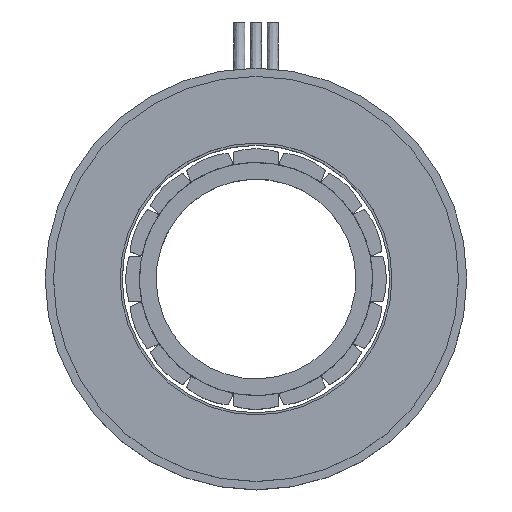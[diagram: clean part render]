
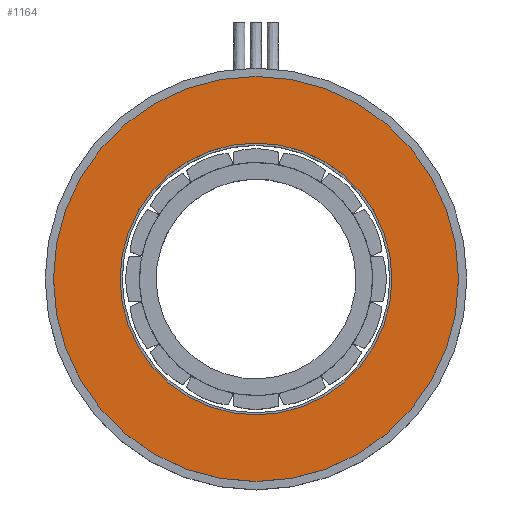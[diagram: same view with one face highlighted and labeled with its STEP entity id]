
A CAD part, top view. The second image highlights one B-rep face of the part: STEP entity #1164.
In plain terms, the highlighted planar face has unit normal (0, 0, 1).
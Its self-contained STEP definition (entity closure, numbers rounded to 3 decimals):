
#12 = FACE_BOUND ( 'NONE', #2033, .T. ) ;
#214 = CARTESIAN_POINT ( 'NONE',  ( 0., 0., 15. ) ) ;
#242 = AXIS2_PLACEMENT_3D ( 'NONE', #214, #605, #1417 ) ;
#337 = ORIENTED_EDGE ( 'NONE', *, *, #777, .T. ) ;
#356 = CIRCLE ( 'NONE', #1738, 24.5 ) ;
#459 = DIRECTION ( 'NONE',  ( 1., 0., 0. ) ) ;
#562 = CARTESIAN_POINT ( 'NONE',  ( 24.5, 0., 15. ) ) ;
#598 = CARTESIAN_POINT ( 'NONE',  ( 0., 0., 15. ) ) ;
#605 = DIRECTION ( 'NONE',  ( 0., 0., 1. ) ) ;
#620 = VERTEX_POINT ( 'NONE', #2066 ) ;
#750 = EDGE_CURVE ( 'NONE', #1549, #1247, #356, .T. ) ;
#777 = EDGE_CURVE ( 'NONE', #620, #1198, #1926, .T. ) ;
#803 = DIRECTION ( 'NONE',  ( 0., 0., 1. ) ) ;
#870 = FACE_OUTER_BOUND ( 'NONE', #1120, .T. ) ;
#902 = AXIS2_PLACEMENT_3D ( 'NONE', #1585, #1814, #2593 ) ;
#960 = AXIS2_PLACEMENT_3D ( 'NONE', #598, #803, #1427 ) ;
#999 = CARTESIAN_POINT ( 'NONE',  ( -24.5, 0., 15. ) ) ;
#1088 = ORIENTED_EDGE ( 'NONE', *, *, #750, .F. ) ;
#1095 = CARTESIAN_POINT ( 'NONE',  ( 0., 0., 15. ) ) ;
#1120 = EDGE_LOOP ( 'NONE', ( #337, #1778 ) ) ;
#1164 = ADVANCED_FACE ( 'NONE', ( #12, #870 ), #2013, .T. ) ;
#1198 = VERTEX_POINT ( 'NONE', #2622 ) ;
#1247 = VERTEX_POINT ( 'NONE', #562 ) ;
#1278 = CARTESIAN_POINT ( 'NONE',  ( 0., 0., 15. ) ) ;
#1300 = AXIS2_PLACEMENT_3D ( 'NONE', #1278, #1486, #1684 ) ;
#1417 = DIRECTION ( 'NONE',  ( 1., 0., 0. ) ) ;
#1427 = DIRECTION ( 'NONE',  ( 1., 0., 0. ) ) ;
#1453 = ORIENTED_EDGE ( 'NONE', *, *, #1852, .F. ) ;
#1486 = DIRECTION ( 'NONE',  ( 0., 0., 1. ) ) ;
#1523 = EDGE_CURVE ( 'NONE', #1198, #620, #2387, .T. ) ;
#1549 = VERTEX_POINT ( 'NONE', #999 ) ;
#1585 = CARTESIAN_POINT ( 'NONE',  ( 0., 0., 15. ) ) ;
#1684 = DIRECTION ( 'NONE',  ( 1., 0., 0. ) ) ;
#1738 = AXIS2_PLACEMENT_3D ( 'NONE', #1095, #1927, #459 ) ;
#1778 = ORIENTED_EDGE ( 'NONE', *, *, #1523, .T. ) ;
#1814 = DIRECTION ( 'NONE',  ( 0., 0., 1. ) ) ;
#1852 = EDGE_CURVE ( 'NONE', #1247, #1549, #2126, .T. ) ;
#1926 = CIRCLE ( 'NONE', #1300, 36.5 ) ;
#1927 = DIRECTION ( 'NONE',  ( 0., 0., 1. ) ) ;
#2013 = PLANE ( 'NONE',  #902 ) ;
#2033 = EDGE_LOOP ( 'NONE', ( #1453, #1088 ) ) ;
#2066 = CARTESIAN_POINT ( 'NONE',  ( 36.5, 0., 15. ) ) ;
#2126 = CIRCLE ( 'NONE', #960, 24.5 ) ;
#2387 = CIRCLE ( 'NONE', #242, 36.5 ) ;
#2593 = DIRECTION ( 'NONE',  ( 1., 0., 0. ) ) ;
#2622 = CARTESIAN_POINT ( 'NONE',  ( -36.5, 0., 15. ) ) ;
